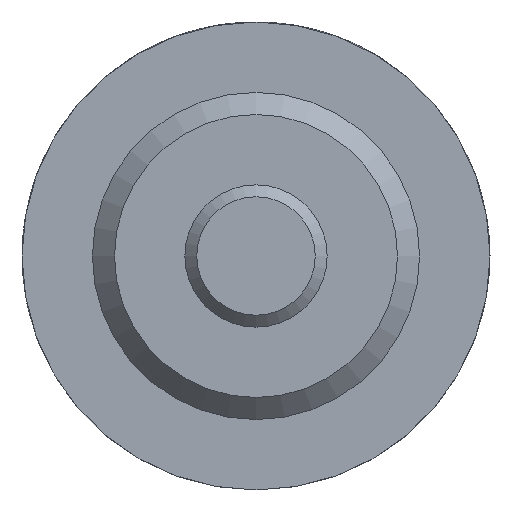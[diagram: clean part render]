
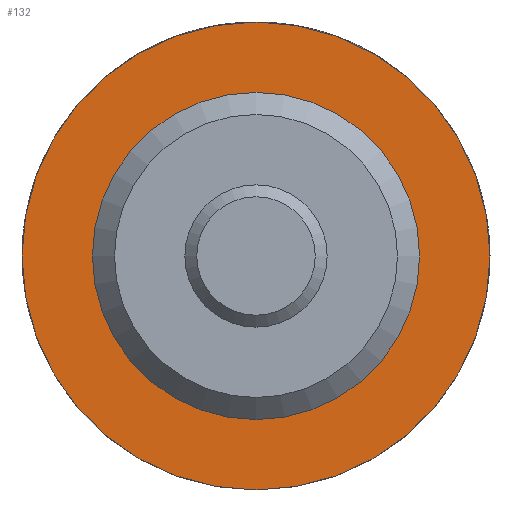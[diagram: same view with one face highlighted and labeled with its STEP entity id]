
A CAD part, left-side view. The second image highlights one B-rep face of the part: STEP entity #132.
In plain terms, the highlighted planar face has unit normal (-1, 0, 0).
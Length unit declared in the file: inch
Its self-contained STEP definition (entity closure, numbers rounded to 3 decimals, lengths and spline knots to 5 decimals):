
#132 = ADVANCED_FACE( '', ( #291, #292 ), #293, .F. );
#291 = FACE_OUTER_BOUND( '', #518, .T. );
#292 = FACE_BOUND( '', #519, .T. );
#293 = PLANE( '', #520 );
#518 = EDGE_LOOP( '', ( #760 ) );
#519 = EDGE_LOOP( '', ( #761 ) );
#520 = AXIS2_PLACEMENT_3D( '', #762, #763, #764 );
#760 = ORIENTED_EDGE( '', *, *, #1166, .F. );
#761 = ORIENTED_EDGE( '', *, *, #1167, .T. );
#762 = CARTESIAN_POINT( '', ( 0.375, 0.2185, 0. ) );
#763 = DIRECTION( '', ( 1., 0., 0. ) );
#764 = DIRECTION( '', ( 0., 0., -1. ) );
#1166 = EDGE_CURVE( '', #1341, #1341, #1342, .T. );
#1167 = EDGE_CURVE( '', #1343, #1343, #1344, .T. );
#1341 = VERTEX_POINT( '', #1629 );
#1342 = CIRCLE( '', #1630, 0.3125 );
#1343 = VERTEX_POINT( '', #1631 );
#1344 = CIRCLE( '', #1632, 0.2185 );
#1629 = CARTESIAN_POINT( '', ( 0.375, 0., -0.3125 ) );
#1630 = AXIS2_PLACEMENT_3D( '', #1988, #1989, #1990 );
#1631 = CARTESIAN_POINT( '', ( 0.375, 0., -0.2185 ) );
#1632 = AXIS2_PLACEMENT_3D( '', #1991, #1992, #1993 );
#1988 = CARTESIAN_POINT( '', ( 0.375, 0., 0. ) );
#1989 = DIRECTION( '', ( 1., 0., 0. ) );
#1990 = DIRECTION( '', ( 0., 0., -1. ) );
#1991 = CARTESIAN_POINT( '', ( 0.375, 0., 0. ) );
#1992 = DIRECTION( '', ( 1., 0., 0. ) );
#1993 = DIRECTION( '', ( 0., 0., -1. ) );
